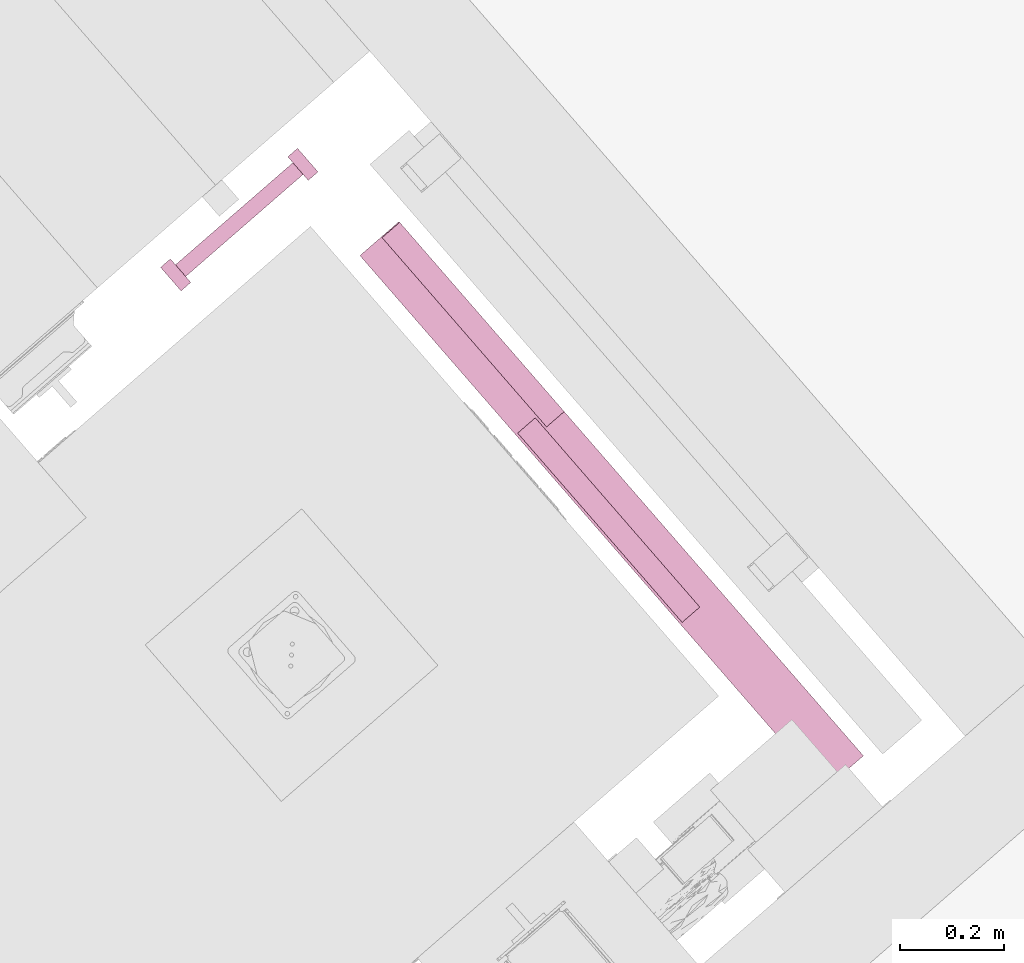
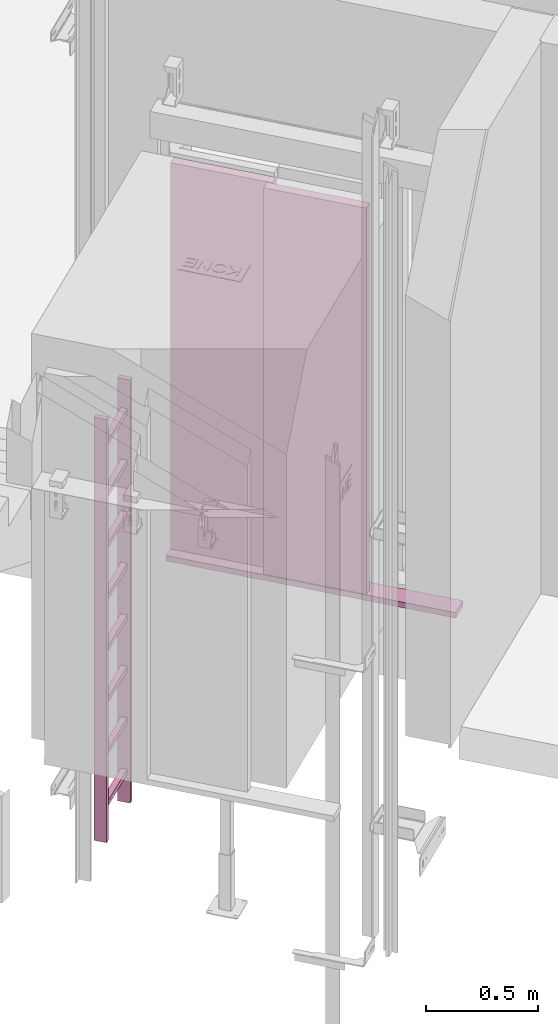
# One storey, part 121 of 124: 2 transport elements.
"""IFC2X3 building model written with IfcOpenShell, lengths in millimetres."""

from ifc_helpers import new_model, entity, si_unit, converted_unit, derived_unit, money_unit, direction, frame, origin_with_axes, place, context, subcontext, project, spatial, faceted_brep, material, material_list, type_object, element, save


model = new_model("IFC2X3")

# Units and contexts
model_context = context("Model", 3, precision=1e-05, world=origin_with_axes(), true_north=direction((0.0, 1.0)))
body_context = subcontext(model_context, "Body", "Model", "MODEL_VIEW")
ifc_project = project(units=[si_unit("LENGTHUNIT", "METRE", prefix="MILLI"), si_unit("AREAUNIT", "SQUARE_METRE"), si_unit("VOLUMEUNIT", "CUBIC_METRE"), converted_unit("PLANEANGLEUNIT", "DEGREE", entity("IfcPlaneAngleMeasure", 0.0174532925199), si_unit("PLANEANGLEUNIT", "RADIAN"), dimensions=[0, 0, 0, 0, 0, 0, 0]), si_unit("SOLIDANGLEUNIT", "STERADIAN"), money_unit("EUR"), converted_unit("TIMEUNIT", "Year", entity("IfcTimeMeasure", 31556926.0), si_unit("TIMEUNIT", "SECOND"), dimensions=[0, 0, 1, 0, 0, 0, 0]), si_unit("MASSUNIT", "GRAM", prefix="KILO"), si_unit("THERMODYNAMICTEMPERATUREUNIT", "DEGREE_CELSIUS"), si_unit("LUMINOUSINTENSITYUNIT", "LUMEN"), si_unit("ENERGYUNIT", "JOULE", prefix="MEGA"), derived_unit("THERMALCONDUCTANCEUNIT", [(si_unit("POWERUNIT", "WATT"), 1), (si_unit("LENGTHUNIT", "METRE"), -1), (si_unit("THERMODYNAMICTEMPERATUREUNIT", "KELVIN"), -1)]), derived_unit("SPECIFICHEATCAPACITYUNIT", [(si_unit("ENERGYUNIT", "JOULE"), 1), (si_unit("MASSUNIT", "GRAM", prefix="KILO"), -1), (si_unit("THERMODYNAMICTEMPERATUREUNIT", "KELVIN"), -1)]), derived_unit("MASSDENSITYUNIT", [(si_unit("MASSUNIT", "GRAM", prefix="KILO"), 1), (si_unit("VOLUMEUNIT", "CUBIC_METRE"), -1)])], contexts=[model_context])

# Site, building, storey
site_placement = place(None, origin_with_axes())
site = spatial("IfcSite", under=ifc_project, at=site_placement, Name="Site", CompositionType="ELEMENT")
building_placement = place(site_placement, origin_with_axes())
building = spatial("IfcBuilding", under=site, at=building_placement, Name="Building", CompositionType="ELEMENT")
storey_placement = place(building_placement, frame((0.0, 0.0, -1615.0), z_axis=(0.0, 0.0, 1.0), x_axis=(1.0, 0.0, 0.0)))
storey = spatial("IfcBuildingStorey", under=building, at=storey_placement, Name="0  korrus", CompositionType="ELEMENT", Elevation=-1615.0)

# Transport elements
ifc_material_1 = material(Name="IFC Building Material")
ifc_material_list_1 = material_list([ifc_material_1, ifc_material_1, ifc_material_1])
transport_element_type_1 = type_object("IfcTransportElementType", Name="KONE_Car_Door_2L:KONE_Car_Door_2L", PredefinedType="NOTDEFINED")
transport_element_1_placement = place(storey_placement, frame((147558.902437, 78893.3223414, 0.0), z_axis=(0.0, 0.0, 1.0), x_axis=(-0.656059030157, 0.754709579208, 0.0)))
element("IfcTransportElement", 1, at=transport_element_1_placement, inside=storey, type_object=transport_element_type_1, material=ifc_material_list_1, Name="KONE_Car_Door_2L:KONE_Car_Door_2L", ObjectType="KONE_Car_Door_2L", CapacityByNumber=0.0, CapacityByWeight=0.0, OperationType="ELEVATOR", context=body_context, shape_type="Brep", body=[
    faceted_brep([(463.0, -85.4438220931, 0.0), (463.0, -40.4438220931, 0.0), (463.0, -40.4438220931, 2100.0), (463.0, -85.4438220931, 2100.0), (-20.5, -85.4438220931, 0.0), (-20.5, -40.4438220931, 0.0), (-20.5, -40.4438220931, 2100.0), (-20.5, -85.4438220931, 2100.0)], [[[0, 1, 2, 3]], [[0, 4, 5, 1]], [[1, 5, 6, 2]], [[3, 2, 6, 7]], [[4, 0, 3, 7]], [[5, 4, 7, 6]]]),
    faceted_brep([(7.0, -35.4438220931, 0.0), (7.0, 9.55617790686, 0.0), (7.0, 9.55617790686, 2100.0), (7.0, -35.4438220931, 2100.0), (-476.5, -35.4438220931, 0.0), (-476.5, 9.55617790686, 0.0), (-476.5, 9.55617790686, 2100.0), (-476.5, -35.4438220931, 2100.0)], [[[0, 1, 2, 3]], [[0, 4, 5, 1]], [[1, 5, 6, 2]], [[3, 2, 6, 7]], [[4, 0, 3, 7]], [[5, 4, 7, 6]]]),
    faceted_brep([(-900.0, -85.4438220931, -30.0), (465.0, -85.4438220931, -30.0), (465.0, -85.4438220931, 0.0), (-900.0, -85.4438220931, 0.0), (-900.0, 14.5561779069, -30.0), (465.0, 14.5561779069, -30.0), (465.0, 14.5561779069, 0.0), (-900.0, 14.5561779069, 0.0)], [[[0, 1, 2, 3]], [[0, 4, 5, 1]], [[1, 5, 6, 2]], [[3, 2, 6, 7]], [[4, 0, 3, 7]], [[5, 4, 7, 6]]]),
])
ifc_material_2 = material(Name="Site specified")
ifc_material_list_2 = material_list([ifc_material_2, ifc_material_2, ifc_material_2, ifc_material_2, ifc_material_2, ifc_material_2, ifc_material_2, ifc_material_2, ifc_material_2, ifc_material_2])
transport_element_type_2 = type_object("IfcTransportElementType", Name="KONE_Pit_Ladder:KONE_Pit_Ladder", PredefinedType="NOTDEFINED")
transport_element_2_placement = place(storey_placement, frame((147162.132114, 79396.1584746, -1400.0), z_axis=(0.0, 0.0, 1.0), x_axis=(-0.754709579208, -0.656059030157, 0.0)))
element("IfcTransportElement", 2, at=transport_element_2_placement, inside=storey, type_object=transport_element_type_2, material=ifc_material_list_2, Name="KONE_Pit_Ladder:KONE_Pit_Ladder", ObjectType="KONE_Pit_Ladder", CapacityByNumber=0.0, CapacityByWeight=0.0, OperationType="ELEVATOR", context=body_context, shape_type="Brep", body=[
    faceted_brep([(25.0, -15.1, 1834.5), (325.0, -15.1, 1834.5), (325.0, -45.1, 1834.5), (25.0, -45.1, 1834.5), (25.0, -15.1, 1861.5), (325.0, -15.1, 1861.5), (325.0, -45.1, 1861.5), (25.0, -45.1, 1861.5)], [[[0, 1, 2, 3]], [[0, 4, 5, 1]], [[1, 5, 6, 2]], [[3, 2, 6, 7]], [[4, 0, 3, 7]], [[5, 4, 7, 6]]]),
    faceted_brep([(25.0, -15.1, 1554.5), (325.0, -15.1, 1554.5), (325.0, -45.1, 1554.5), (25.0, -45.1, 1554.5), (25.0, -15.1, 1581.5), (325.0, -15.1, 1581.5), (325.0, -45.1, 1581.5), (25.0, -45.1, 1581.5)], [[[0, 1, 2, 3]], [[0, 4, 5, 1]], [[1, 5, 6, 2]], [[3, 2, 6, 7]], [[4, 0, 3, 7]], [[5, 4, 7, 6]]]),
    faceted_brep([(25.0, -15.1, 1274.5), (325.0, -15.1, 1274.5), (325.0, -45.1, 1274.5), (25.0, -45.1, 1274.5), (25.0, -15.1, 1301.5), (325.0, -15.1, 1301.5), (325.0, -45.1, 1301.5), (25.0, -45.1, 1301.5)], [[[0, 1, 2, 3]], [[0, 4, 5, 1]], [[1, 5, 6, 2]], [[3, 2, 6, 7]], [[4, 0, 3, 7]], [[5, 4, 7, 6]]]),
    faceted_brep([(25.0, -15.1, 994.5), (325.0, -15.1, 994.5), (325.0, -45.1, 994.5), (25.0, -45.1, 994.5), (25.0, -15.1, 1021.5), (325.0, -15.1, 1021.5), (325.0, -45.1, 1021.5), (25.0, -45.1, 1021.5)], [[[0, 1, 2, 3]], [[0, 4, 5, 1]], [[1, 5, 6, 2]], [[3, 2, 6, 7]], [[4, 0, 3, 7]], [[5, 4, 7, 6]]]),
    faceted_brep([(25.0, -15.1, 714.5), (325.0, -15.1, 714.5), (325.0, -45.1, 714.5), (25.0, -45.1, 714.5), (25.0, -15.1, 741.5), (325.0, -15.1, 741.5), (325.0, -45.1, 741.5), (25.0, -45.1, 741.5)], [[[0, 1, 2, 3]], [[0, 4, 5, 1]], [[1, 5, 6, 2]], [[3, 2, 6, 7]], [[4, 0, 3, 7]], [[5, 4, 7, 6]]]),
    faceted_brep([(25.0, -15.1, 434.5), (325.0, -15.1, 434.5), (325.0, -45.1, 434.5), (25.0, -45.1, 434.5), (25.0, -15.1, 461.5), (325.0, -15.1, 461.5), (325.0, -45.1, 461.5), (25.0, -45.1, 461.5)], [[[0, 1, 2, 3]], [[0, 4, 5, 1]], [[1, 5, 6, 2]], [[3, 2, 6, 7]], [[4, 0, 3, 7]], [[5, 4, 7, 6]]]),
    faceted_brep([(25.0, -15.1, 2114.5), (325.0, -15.1, 2114.5), (325.0, -45.1, 2114.5), (25.0, -45.1, 2114.5), (25.0, -15.1, 2141.5), (325.0, -15.1, 2141.5), (325.0, -45.1, 2141.5), (25.0, -45.1, 2141.5)], [[[0, 1, 2, 3]], [[0, 4, 5, 1]], [[1, 5, 6, 2]], [[3, 2, 6, 7]], [[4, 0, 3, 7]], [[5, 4, 7, 6]]]),
    faceted_brep([(25.0, -15.1, 154.5), (325.0, -15.1, 154.5), (325.0, -45.1, 154.5), (25.0, -45.1, 154.5), (25.0, -15.1, 181.5), (325.0, -15.1, 181.5), (325.0, -45.1, 181.5), (25.0, -45.1, 181.5)], [[[0, 1, 2, 3]], [[0, 4, 5, 1]], [[1, 5, 6, 2]], [[3, 2, 6, 7]], [[4, 0, 3, 7]], [[5, 4, 7, 6]]]),
    faceted_brep([(0.0, 0.0, 2300.0), (0.0, 0.0, 0.0), (0.0, -60.2, 0.0), (0.0, -60.2, 2300.0), (25.0, 0.0, 2300.0), (25.0, 0.0, 0.0), (25.0, -60.2, 0.0), (25.0, -60.2, 2300.0)], [[[0, 1, 2, 3]], [[0, 4, 5, 1]], [[1, 5, 6, 2]], [[3, 2, 6, 7]], [[4, 0, 3, 7]], [[5, 4, 7, 6]]]),
    faceted_brep([(325.0, 0.0, 0.0), (350.0, 0.0, 0.0), (350.0, -60.2, 0.0), (325.0, -60.2, 0.0), (325.0, 0.0, 2300.0), (350.0, 0.0, 2300.0), (350.0, -60.2, 2300.0), (325.0, -60.2, 2300.0)], [[[0, 1, 2, 3]], [[0, 4, 5, 1]], [[1, 5, 6, 2]], [[3, 2, 6, 7]], [[4, 0, 3, 7]], [[5, 4, 7, 6]]]),
])

save(model, "model.ifc")
